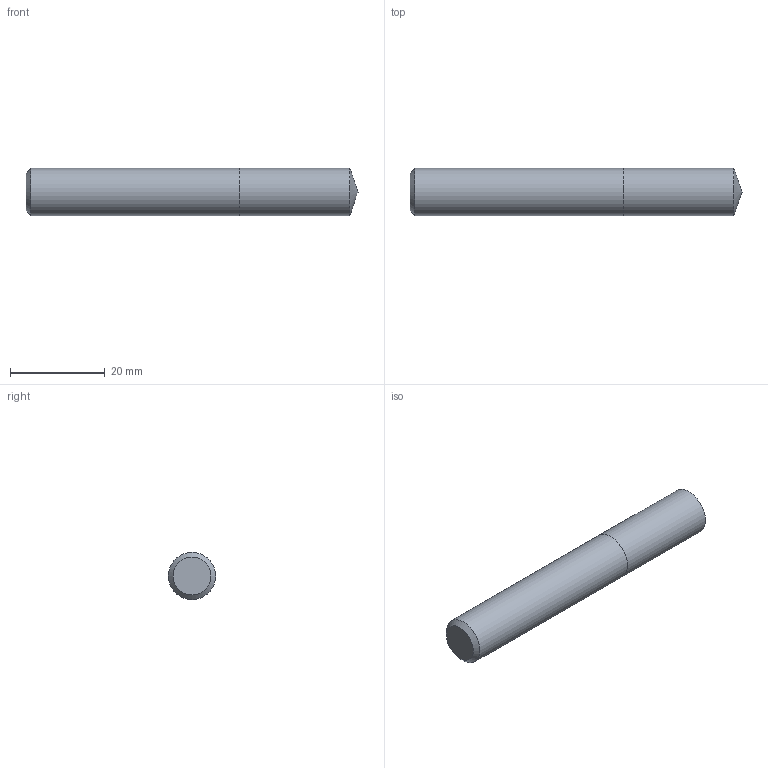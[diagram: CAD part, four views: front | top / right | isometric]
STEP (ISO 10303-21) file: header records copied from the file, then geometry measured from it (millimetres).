
FILE_DESCRIPTION (( 'STEP AP214' ), '1' );
FILE_NAME ('03-2228.STEP', '2022-02-07T07:05:20', ( 'USER' ), ( '' ), 'SwSTEP 2.0', 'SolidWorks 2018', '' );
FILE_SCHEMA (( 'AUTOMOTIVE_DESIGN' ));
Length unit declared in the file: millimetre
Products named in the file (1): 03-2228
Bounding box: 70 x 10 x 10 mm (x, y, z)
Volume: 5393 mm3; surface area: 2444 mm2
Topology: 2 solids, 2 shells, 7 faces, 11 edges, 7 vertices
Faces by surface type: plane 3, cylinder 2, cone 2
Full cylindrical faces by diameter (mm): 10 x2
Entity records: 189 total; most frequent: DIRECTION 26, CARTESIAN_POINT 18, AXIS2_PLACEMENT_3D 13, EDGE_LOOP 10, ORIENTED_EDGE 10, FACE_OUTER_BOUND 9, ADVANCED_FACE 7, UNCERTAINTY_MEASURE_WITH_UNIT 6
